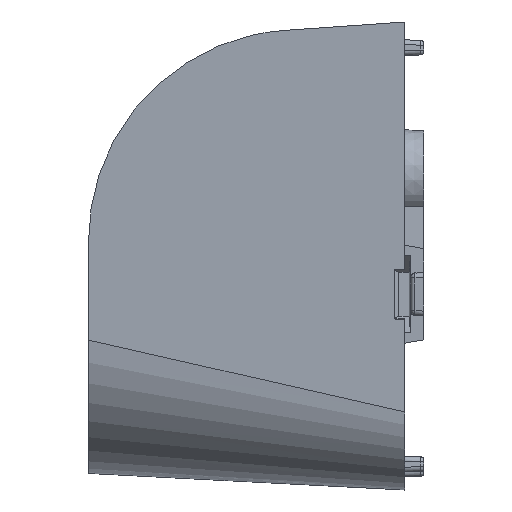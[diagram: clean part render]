
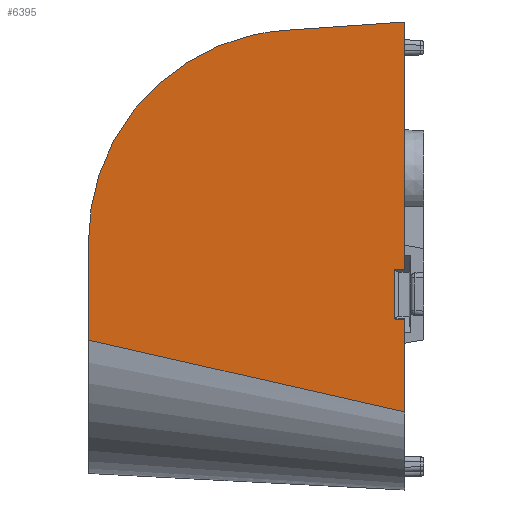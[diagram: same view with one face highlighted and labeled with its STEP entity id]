
A CAD part, left-side view. The second image highlights one B-rep face of the part: STEP entity #6395.
In plain terms, the highlighted planar face has unit normal (-0.998, 0.07, 0).
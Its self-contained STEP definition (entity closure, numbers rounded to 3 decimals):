
#129 = FACE_OUTER_BOUND ( 'NONE', #3639, .T. ) ;
#185 = VERTEX_POINT ( 'NONE', #7696 ) ;
#475 = VECTOR ( 'NONE', #7646, 1000. ) ;
#583 = ORIENTED_EDGE ( 'NONE', *, *, #1893, .F. ) ;
#746 = VERTEX_POINT ( 'NONE', #9511 ) ;
#881 = CARTESIAN_POINT ( 'NONE',  ( -51.558, 13.469, 23.058 ) ) ;
#884 = CARTESIAN_POINT ( 'NONE',  ( -52.567, -0.959, -1.801 ) ) ;
#921 = CARTESIAN_POINT ( 'NONE',  ( -52.43, 1., -1.875 ) ) ;
#935 = VECTOR ( 'NONE', #3748, 1000. ) ;
#965 = EDGE_CURVE ( 'NONE', #185, #3803, #4691, .T. ) ;
#1044 = EDGE_CURVE ( 'NONE', #3803, #6203, #9896, .T. ) ;
#1236 = EDGE_CURVE ( 'NONE', #4459, #746, #2662, .T. ) ;
#1252 = CARTESIAN_POINT ( 'NONE',  ( -52.43, 1., 23.93 ) ) ;
#1258 = DIRECTION ( 'NONE',  ( 0., 0., 1. ) ) ;
#1341 = CARTESIAN_POINT ( 'NONE',  ( -51.554, 13.535, 23.054 ) ) ;
#1601 = VECTOR ( 'NONE', #5054, 1000. ) ;
#1645 = LINE ( 'NONE', #884, #9494 ) ;
#1745 = LINE ( 'NONE', #10002, #1601 ) ;
#1893 = EDGE_CURVE ( 'NONE', #10570, #746, #1645, .T. ) ;
#2625 = CARTESIAN_POINT ( 'NONE',  ( -50.122, 34., -9.293 ) ) ;
#2662 = LINE ( 'NONE', #2771, #6019 ) ;
#2771 = CARTESIAN_POINT ( 'NONE',  ( -52.354, 2.088, 24. ) ) ;
#3262 = ORIENTED_EDGE ( 'NONE', *, *, #4878, .F. ) ;
#3639 = EDGE_LOOP ( 'NONE', ( #7324, #3929, #9220, #5785, #10420, #3262, #9700, #6675, #583 ) ) ;
#3748 = DIRECTION ( 'NONE',  ( 0., 0., -1. ) ) ;
#3803 = VERTEX_POINT ( 'NONE', #9423 ) ;
#3929 = ORIENTED_EDGE ( 'NONE', *, *, #1044, .F. ) ;
#4084 = DIRECTION ( 'NONE',  ( -0.07, -0.995, 0.07 ) ) ;
#4114 = CARTESIAN_POINT ( 'NONE',  ( -52.354, 2.088, -7.085 ) ) ;
#4199 = DIRECTION ( 'NONE',  ( -0.998, 0.07, 0. ) ) ;
#4241 = DIRECTION ( 'NONE',  ( 0.07, 0.997, -0.037 ) ) ;
#4251 = CARTESIAN_POINT ( 'NONE',  ( -50.892, 23., -11.792 ) ) ;
#4320 = LINE ( 'NONE', #5140, #475 ) ;
#4327 = B_SPLINE_CURVE_WITH_KNOTS ( 'NONE', 3,
 ( #10291, #8667, #4251, #2625 ),
 .UNSPECIFIED., .F., .F.,
 ( 4, 4 ),
 ( 0.001, 0.035 ),
 .UNSPECIFIED. ) ;
#4459 = VERTEX_POINT ( 'NONE', #4114 ) ;
#4691 =( BOUNDED_CURVE ( )  B_SPLINE_CURVE ( 3, ( #5299, #9589, #5449, #1341 ),
 .UNSPECIFIED., .F., .F. ) 
 B_SPLINE_CURVE_WITH_KNOTS ( ( 4, 4 ),
 ( 0., 1.501 ),
 .UNSPECIFIED. ) 
 CURVE ( )  GEOMETRIC_REPRESENTATION_ITEM ( )  RATIONAL_B_SPLINE_CURVE ( ( 1., 0.821, 0.821, 1. ) ) 
 REPRESENTATION_ITEM ( '' )  );
#4864 = EDGE_CURVE ( 'NONE', #10207, #185, #6246, .T. ) ;
#4878 = EDGE_CURVE ( 'NONE', #6968, #9195, #6297, .T. ) ;
#4903 = VECTOR ( 'NONE', #4084, 1000. ) ;
#5054 = DIRECTION ( 'NONE',  ( 0.07, 0.997, 0.037 ) ) ;
#5140 = CARTESIAN_POINT ( 'NONE',  ( -52.43, 1., 24. ) ) ;
#5179 = CARTESIAN_POINT ( 'NONE',  ( -52.5, 0., 24. ) ) ;
#5299 = CARTESIAN_POINT ( 'NONE',  ( -50.122, 34., 1.107 ) ) ;
#5323 = CARTESIAN_POINT ( 'NONE',  ( -50.122, 34., -23.218 ) ) ;
#5449 = CARTESIAN_POINT ( 'NONE',  ( -50.704, 25.69, 22.204 ) ) ;
#5785 = ORIENTED_EDGE ( 'NONE', *, *, #4864, .F. ) ;
#6019 = VECTOR ( 'NONE', #9355, 1000. ) ;
#6203 = VERTEX_POINT ( 'NONE', #1252 ) ;
#6246 = LINE ( 'NONE', #5323, #8210 ) ;
#6297 = LINE ( 'NONE', #9617, #935 ) ;
#6395 = ADVANCED_FACE ( 'NONE', ( #129 ), #7741, .T. ) ;
#6675 = ORIENTED_EDGE ( 'NONE', *, *, #1236, .T. ) ;
#6968 = VERTEX_POINT ( 'NONE', #7341 ) ;
#7324 = ORIENTED_EDGE ( 'NONE', *, *, #8540, .F. ) ;
#7341 = CARTESIAN_POINT ( 'NONE',  ( -52.43, 1., -7.125 ) ) ;
#7555 = CARTESIAN_POINT ( 'NONE',  ( -50.122, 34., -9.293 ) ) ;
#7627 = CARTESIAN_POINT ( 'NONE',  ( -52.43, 1., -16.791 ) ) ;
#7631 = DIRECTION ( 'NONE',  ( 0., 0., 1. ) ) ;
#7646 = DIRECTION ( 'NONE',  ( 0., 0., -1. ) ) ;
#7696 = CARTESIAN_POINT ( 'NONE',  ( -50.122, 34., 1.107 ) ) ;
#7741 = PLANE ( 'NONE',  #10465 ) ;
#8210 = VECTOR ( 'NONE', #1258, 1000. ) ;
#8540 = EDGE_CURVE ( 'NONE', #6203, #10570, #4320, .T. ) ;
#8667 = CARTESIAN_POINT ( 'NONE',  ( -51.661, 12., -14.292 ) ) ;
#8937 = EDGE_CURVE ( 'NONE', #9195, #10207, #4327, .T. ) ;
#9195 = VERTEX_POINT ( 'NONE', #7627 ) ;
#9220 = ORIENTED_EDGE ( 'NONE', *, *, #965, .F. ) ;
#9355 = DIRECTION ( 'NONE',  ( 0., 0., 1. ) ) ;
#9423 = CARTESIAN_POINT ( 'NONE',  ( -51.554, 13.535, 23.054 ) ) ;
#9494 = VECTOR ( 'NONE', #4241, 1000. ) ;
#9511 = CARTESIAN_POINT ( 'NONE',  ( -52.354, 2.088, -1.915 ) ) ;
#9589 = CARTESIAN_POINT ( 'NONE',  ( -50.122, 34., 13.292 ) ) ;
#9617 = CARTESIAN_POINT ( 'NONE',  ( -52.43, 1., 24. ) ) ;
#9700 = ORIENTED_EDGE ( 'NONE', *, *, #10152, .T. ) ;
#9896 = LINE ( 'NONE', #881, #4903 ) ;
#10002 = CARTESIAN_POINT ( 'NONE',  ( -52.419, 1.157, -7.12 ) ) ;
#10152 = EDGE_CURVE ( 'NONE', #6968, #4459, #1745, .T. ) ;
#10207 = VERTEX_POINT ( 'NONE', #7555 ) ;
#10291 = CARTESIAN_POINT ( 'NONE',  ( -52.43, 1., -16.791 ) ) ;
#10420 = ORIENTED_EDGE ( 'NONE', *, *, #8937, .F. ) ;
#10465 = AXIS2_PLACEMENT_3D ( 'NONE', #5179, #4199, #7631 ) ;
#10570 = VERTEX_POINT ( 'NONE', #921 ) ;
